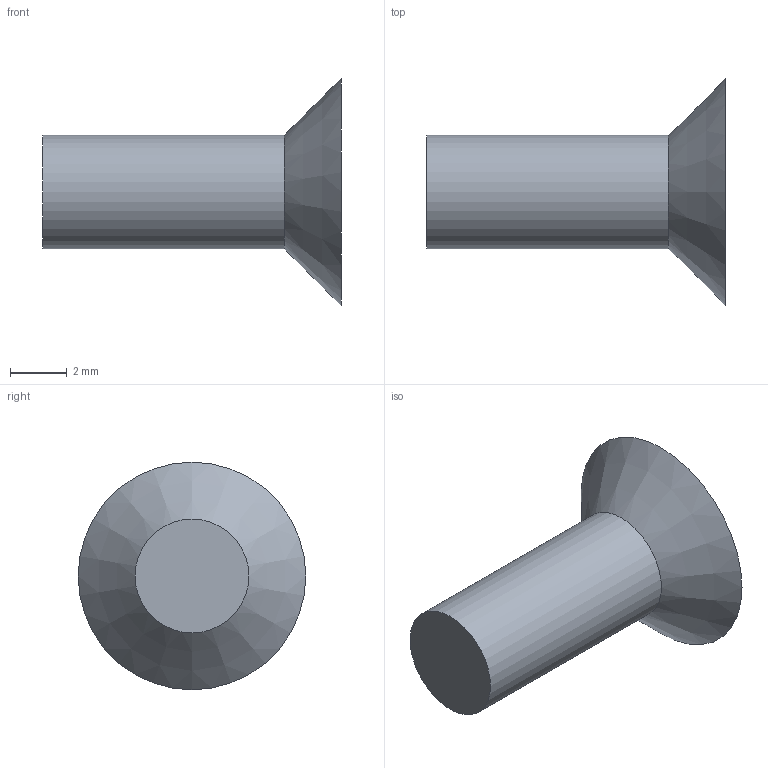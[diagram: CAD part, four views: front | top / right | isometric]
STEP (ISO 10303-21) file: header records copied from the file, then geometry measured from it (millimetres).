
FILE_DESCRIPTION(('Open CASCADE Model'),'2;1');
FILE_NAME('Open CASCADE Shape Model','2026-10-18T02:27:58',('Author'),( 'Open CASCADE'),'Open CASCADE STEP processor 7.9','Open CASCADE 7.9' ,'Unknown');
FILE_SCHEMA(('AUTOMOTIVE_DESIGN { 1 0 10303 214 1 1 1 1 }'));
Length unit declared in the file: millimetre
Products named in the file (1): Open CASCADE STEP translator 7.9 23
Bounding box: 10.5 x 8 x 8 mm (x, y, z)
Volume: 165.5 mm3; surface area: 223 mm2
Topology: 1 solids, 1 shells, 4 faces, 6 edges, 4 vertices
Faces by surface type: plane 2, cylinder 1, cone 1
Full cylindrical faces by diameter (mm): 4 x1
Entity records: 182 total; most frequent: DIRECTION 32, CARTESIAN_POINT 27, ORIENTED_EDGE 12, PCURVE 12, DEFINITIONAL_REPRESENTATION 12, LINE 12, VECTOR 12, AXIS2_PLACEMENT_3D 9
